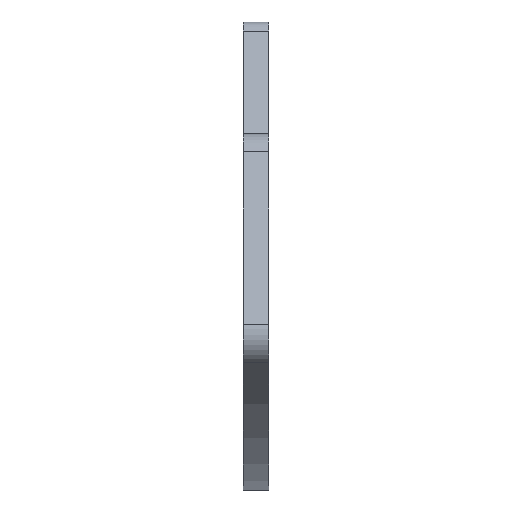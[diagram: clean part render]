
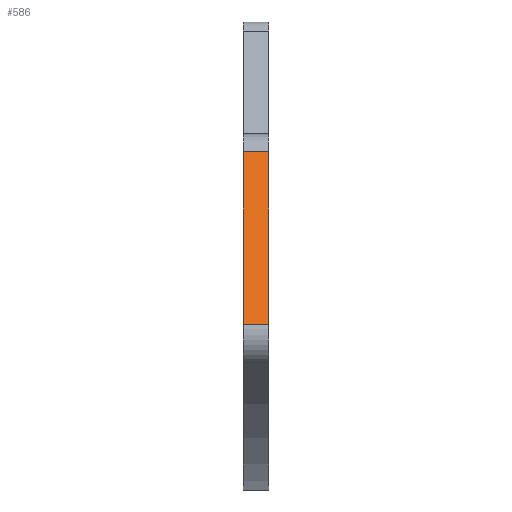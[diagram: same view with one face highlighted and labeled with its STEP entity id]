
A CAD part, left-side view. The second image highlights one B-rep face of the part: STEP entity #586.
In plain terms, the highlighted planar face has unit normal (-0.911, 0, 0.412).
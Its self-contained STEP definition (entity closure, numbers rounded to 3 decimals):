
#245=PLANE('',#5686);
#586=ADVANCED_FACE('',(#954),#245,.F.);
#954=FACE_OUTER_BOUND('',#1283,.T.);
#1283=EDGE_LOOP('',(#2564,#2565,#2566,#2567));
#1629=LINE('',#7777,#1910);
#1639=LINE('',#9257,#1920);
#1649=LINE('',#9555,#1932);
#1650=LINE('',#9556,#1933);
#1910=VECTOR('',#6057,1.);
#1920=VECTOR('',#6129,1.);
#1932=VECTOR('',#6153,1.);
#1933=VECTOR('',#6154,1.);
#2564=ORIENTED_EDGE('',*,*,#4392,.T.);
#2565=ORIENTED_EDGE('',*,*,#4633,.T.);
#2566=ORIENTED_EDGE('',*,*,#4619,.F.);
#2567=ORIENTED_EDGE('',*,*,#4634,.T.);
#3835=VERTEX_POINT('',#7776);
#3836=VERTEX_POINT('',#7778);
#4060=VERTEX_POINT('',#9256);
#4061=VERTEX_POINT('',#9258);
#4392=EDGE_CURVE('',#3836,#3835,#1629,.T.);
#4619=EDGE_CURVE('',#4060,#4061,#1639,.T.);
#4633=EDGE_CURVE('',#3835,#4061,#1649,.T.);
#4634=EDGE_CURVE('',#4060,#3836,#1650,.T.);
#5686=AXIS2_PLACEMENT_3D('',#9557,#6155,#6156);
#6057=DIRECTION('',(-0.412,0.,-0.911));
#6129=DIRECTION('',(-0.412,0.,-0.911));
#6153=DIRECTION('',(0.,-1.,0.));
#6154=DIRECTION('',(0.,1.,0.));
#6155=DIRECTION('',(0.911,0.,-0.412));
#6156=DIRECTION('',(-0.412,0.,-0.911));
#7776=CARTESIAN_POINT('',(-132.609,-453.,-170.655));
#7777=CARTESIAN_POINT('',(-102.053,-453.,-103.005));
#7778=CARTESIAN_POINT('',(-107.694,-453.,-115.495));
#9256=CARTESIAN_POINT('',(-107.694,-461.,-115.495));
#9257=CARTESIAN_POINT('',(-102.053,-461.,-103.005));
#9258=CARTESIAN_POINT('',(-132.609,-461.,-170.655));
#9555=CARTESIAN_POINT('',(-132.609,-461.,-170.655));
#9556=CARTESIAN_POINT('',(-107.694,-461.,-115.495));
#9557=CARTESIAN_POINT('',(-102.053,-461.,-103.005));
